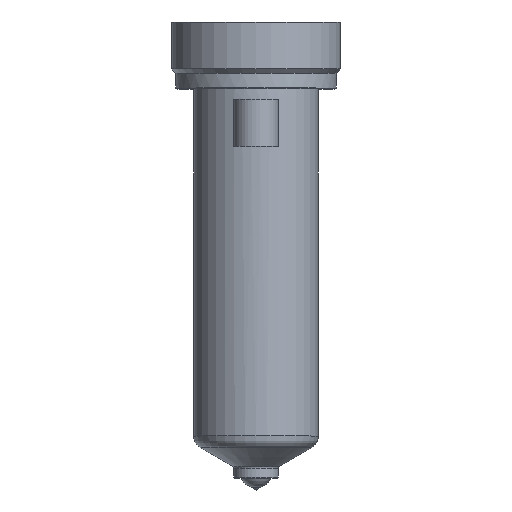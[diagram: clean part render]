
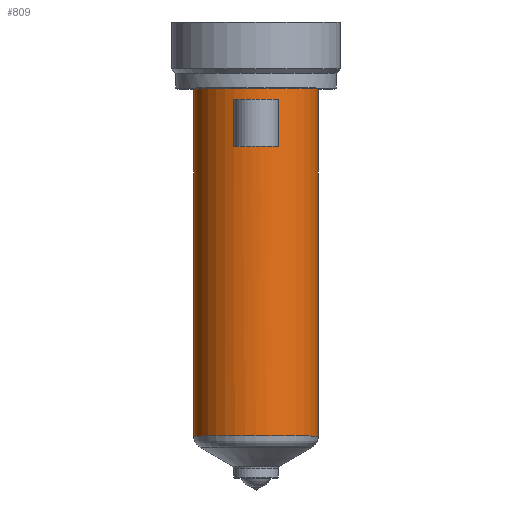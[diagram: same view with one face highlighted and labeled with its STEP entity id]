
A CAD part, top view. The second image highlights one B-rep face of the part: STEP entity #809.
In plain terms, the highlighted cylindrical face has radius 14 mm (diameter 28 mm), a partial arc.
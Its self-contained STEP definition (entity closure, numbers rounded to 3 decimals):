
#195=DIRECTION('',(0.,-1.,0.));
#196=VECTOR('',#195,77.893);
#197=CARTESIAN_POINT('',(14.,0.,0.));
#198=LINE('',#197,#196);
#199=CARTESIAN_POINT('',(0.,-77.893,0.));
#200=DIRECTION('',(0.,1.,0.));
#201=DIRECTION('',(-1.,0.,0.));
#202=AXIS2_PLACEMENT_3D('',#199,#200,#201);
#204=DIRECTION('',(0.,1.,0.));
#205=VECTOR('',#204,77.893);
#206=CARTESIAN_POINT('',(-14.,-77.893,0.));
#207=LINE('',#206,#205);
#208=CARTESIAN_POINT('',(0.,0.,0.));
#209=DIRECTION('',(0.,1.,0.));
#210=DIRECTION('',(-1.,0.,0.));
#211=AXIS2_PLACEMENT_3D('',#208,#209,#210);
#375=DIRECTION('',(0.,-1.,0.));
#376=VECTOR('',#375,10.5);
#377=CARTESIAN_POINT('',(-5.,-2.5,13.077));
#378=LINE('',#377,#376);
#383=CARTESIAN_POINT('',(0.,-13.,0.));
#384=DIRECTION('',(0.,1.,0.));
#385=DIRECTION('',(-0.357,0.,0.934));
#386=AXIS2_PLACEMENT_3D('',#383,#384,#385);
#418=CARTESIAN_POINT('',(0.,-2.5,0.));
#419=DIRECTION('',(0.,-1.,0.));
#420=DIRECTION('',(0.357,0.,0.934));
#421=AXIS2_PLACEMENT_3D('',#418,#419,#420);
#423=DIRECTION('',(0.,-1.,0.));
#424=VECTOR('',#423,10.5);
#425=CARTESIAN_POINT('',(5.,-2.5,13.077));
#426=LINE('',#425,#424);
#484=CARTESIAN_POINT('',(-14.,0.,0.));
#485=CARTESIAN_POINT('',(14.,0.,0.));
#486=VERTEX_POINT('',#484);
#487=VERTEX_POINT('',#485);
#496=CARTESIAN_POINT('',(5.,-2.5,13.077));
#497=VERTEX_POINT('',#496);
#498=CARTESIAN_POINT('',(-5.,-2.5,13.077));
#499=VERTEX_POINT('',#498);
#536=CARTESIAN_POINT('',(14.,-77.893,0.));
#537=VERTEX_POINT('',#536);
#546=CARTESIAN_POINT('',(-14.,-77.893,0.));
#547=VERTEX_POINT('',#546);
#568=CARTESIAN_POINT('',(-5.,-13.,13.077));
#569=CARTESIAN_POINT('',(5.,-13.,13.077));
#570=VERTEX_POINT('',#568);
#571=VERTEX_POINT('',#569);
#787=CARTESIAN_POINT('',(0.,16.4,0.));
#788=DIRECTION('',(0.,-1.,0.));
#789=DIRECTION('',(-1.,0.,0.));
#790=AXIS2_PLACEMENT_3D('',#787,#788,#789);
#791=CYLINDRICAL_SURFACE('',#790,14.);
#792=ORIENTED_EDGE('',*,*,#781,.T.);
#794=ORIENTED_EDGE('',*,*,#793,.F.);
#795=ORIENTED_EDGE('',*,*,#777,.T.);
#796=ORIENTED_EDGE('',*,*,#767,.T.);
#797=EDGE_LOOP('',(#792,#794,#795,#796));
#798=FACE_OUTER_BOUND('',#797,.F.);
#800=ORIENTED_EDGE('',*,*,#799,.T.);
#802=ORIENTED_EDGE('',*,*,#801,.T.);
#804=ORIENTED_EDGE('',*,*,#803,.F.);
#806=ORIENTED_EDGE('',*,*,#805,.T.);
#807=EDGE_LOOP('',(#800,#802,#804,#806));
#808=FACE_BOUND('',#807,.F.);
#809=ADVANCED_FACE('',(#798,#808),#791,.T.);
#203=CIRCLE('',#202,14.);
#212=CIRCLE('',#211,14.);
#387=CIRCLE('',#386,14.);
#422=CIRCLE('',#421,14.);
#767=EDGE_CURVE('',#486,#487,#212,.T.);
#777=EDGE_CURVE('',#547,#486,#207,.T.);
#781=EDGE_CURVE('',#487,#537,#198,.T.);
#793=EDGE_CURVE('',#547,#537,#203,.T.);
#799=EDGE_CURVE('',#499,#570,#378,.T.);
#801=EDGE_CURVE('',#570,#571,#387,.T.);
#803=EDGE_CURVE('',#497,#571,#426,.T.);
#805=EDGE_CURVE('',#497,#499,#422,.T.);
